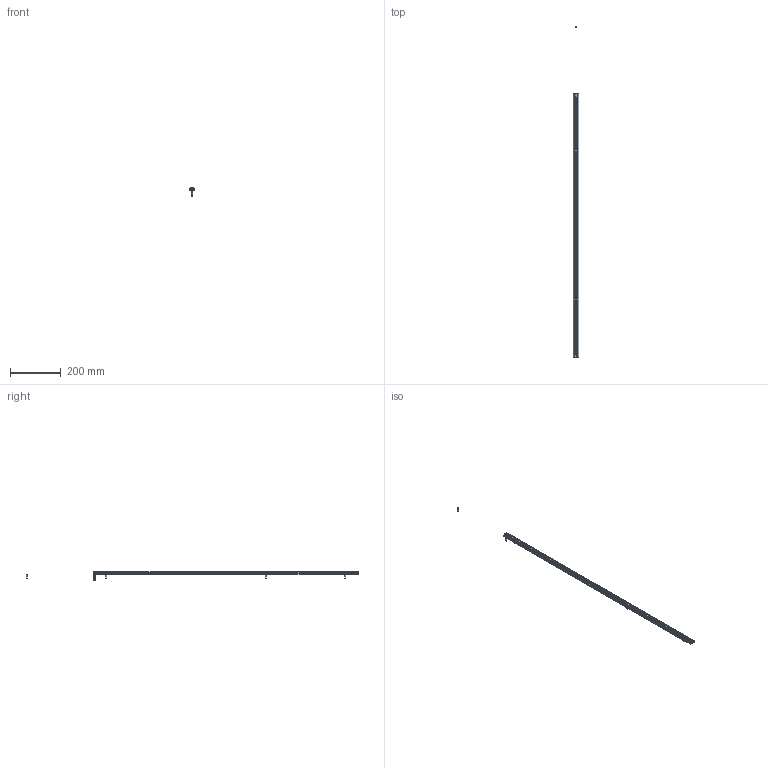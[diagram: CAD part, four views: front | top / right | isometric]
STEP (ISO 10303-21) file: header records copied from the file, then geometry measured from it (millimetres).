
FILE_DESCRIPTION (( 'STEP AP214' ), '1' );
FILE_NAME ('ILGA-B-K1a-1040mm.STEP', '2026-04-24T22:52:40', ( '' ), ( '' ), 'SwSTEP 2.0', 'SolidWorks 2025', '' );
FILE_SCHEMA (( 'AUTOMOTIVE_DESIGN' ));
Length unit declared in the file: millimetre
Products named in the file (1): ILGA-B-K1a-1040mm
Bounding box: 22.4 x 1305.49 x 34.2 mm (x, y, z)
Volume: 80001.7 mm3; surface area: 142329.6 mm2
Topology: 13 solids, 13 shells, 728 faces, 1866 edges, 1142 vertices
Faces by surface type: plane 314, cylinder 270, cone 60, torus 44, bspline 24, sphere 16
Entity records: 30387 total; most frequent: CARTESIAN_POINT 4637, DIRECTION 3846, ORIENTED_EDGE 3644, EDGE_CURVE 1822, AXIS2_PLACEMENT_3D 1439, VERTEX_POINT 1142, VECTOR 968, LINE 968
